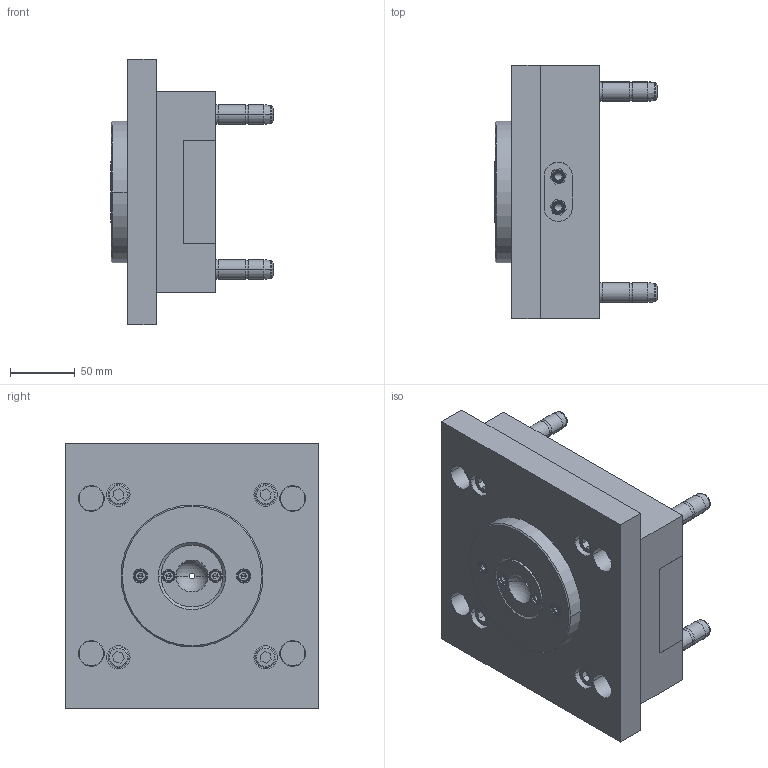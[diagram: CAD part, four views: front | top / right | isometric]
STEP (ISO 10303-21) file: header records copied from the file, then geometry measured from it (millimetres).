
FILE_DESCRIPTION (( 'STEP AP203' ), '1' );
FILE_NAME ('000 Moule partie fixe.STEP', '2021-10-27T18:12:48', ( '' ), ( '' ), 'SwSTEP 2.0', 'SolidWorks 2019', '' );
FILE_SCHEMA (( 'CONFIG_CONTROL_DESIGN' ));
Length unit declared in the file: millimetre
Products named in the file (18): 023 Raccord; 003 Plaque Porte Empreinte; 039 taille engrenage; 015 Colonne de Guidage; 001 Plaque de Fixation; 025 Joint Torique; 036 Vis CHc M10x20; 027 Rondelle Elastique; 016 Colonne de Guidage; 024 Bouchon Fiteté; 008 embout; 044 Vis CHC M5-16_Vis C HC M4-20; 032 Vis CHc M6x22; 000 Moule partie fixe; 033 Vis CHc M6x30; 043 rondelle de centrage; 042 buse; 006 Plaque empreinte partie fixe
Assembly tree (42 placements, depth 2):
  000 Moule partie fixe
    001 Plaque de Fixation
    003 Plaque Porte Empreinte
    006 Plaque empreinte partie fixe
    008 embout  x2
    015 Colonne de Guidage
    016 Colonne de Guidage  x3
    023 Raccord  x2
    024 Bouchon Fiteté  x6
    025 Joint Torique  x2
    027 Rondelle Elastique  x4
    032 Vis CHc M6x22  x4
    033 Vis CHc M6x30  x4
    036 Vis CHc M10x20  x4
    039 taille engrenage
    042 buse
    043 rondelle de centrage
    044 Vis CHC M5-16_Vis C HC M4-20  x4
Bounding box: 125.5 x 196 x 206 mm (x, y, z)
Volume: 2362757.9 mm3; surface area: 404247.9 mm2
Topology: 42 solids, 42 shells, 2259 faces, 5867 edges, 3778 vertices
Faces by surface type: cylinder 1149, plane 542, bspline 448, cone 110, torus 8, sphere 2
Entity records: 59556 total; most frequent: CARTESIAN_POINT 15097, ORIENTED_EDGE 8990, DIRECTION 8715, EDGE_CURVE 4495, AXIS2_PLACEMENT_3D 3467, VERTEX_POINT 2947, CIRCLE 2116, EDGE_LOOP 1862
